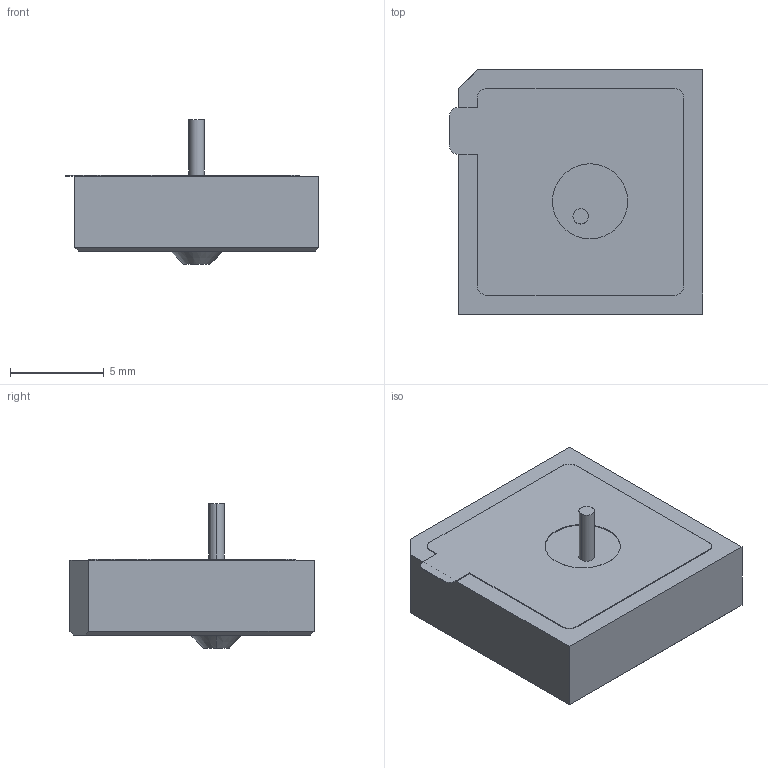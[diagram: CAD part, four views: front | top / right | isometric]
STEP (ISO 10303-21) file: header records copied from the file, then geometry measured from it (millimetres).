
FILE_DESCRIPTION((''),'2;1');
FILE_NAME('9001118','2025-03-26T12:41:42',('sproust'),(''),'CREO PARAMETRIC BY PTC INC, 2023072','CREO PARAMETRIC BY PTC INC, 2023072','');
FILE_SCHEMA(('AUTOMOTIVE_DESIGN { 1 0 10303 214 1 1 1 1 }'));
Length unit declared in the file: millimetre
Products named in the file (1): 9001118
Bounding box: 13.5 x 13 x 7.7 mm (x, y, z)
Volume: 684.7 mm3; surface area: 558.2 mm2
Topology: 8 solids, 8 shells, 242 faces, 644 edges, 426 vertices
Faces by surface type: extrusion 122, plane 108, cylinder 10, cone 2
Entity records: 10253 total; most frequent: CARTESIAN_POINT 2409, ORIENTED_EDGE 1288, DIRECTION 786, PRESENTATION_STYLE_ASSIGNMENT 673, STYLED_ITEM 652, CURVE_STYLE 644, EDGE_CURVE 644, VECTOR 498
